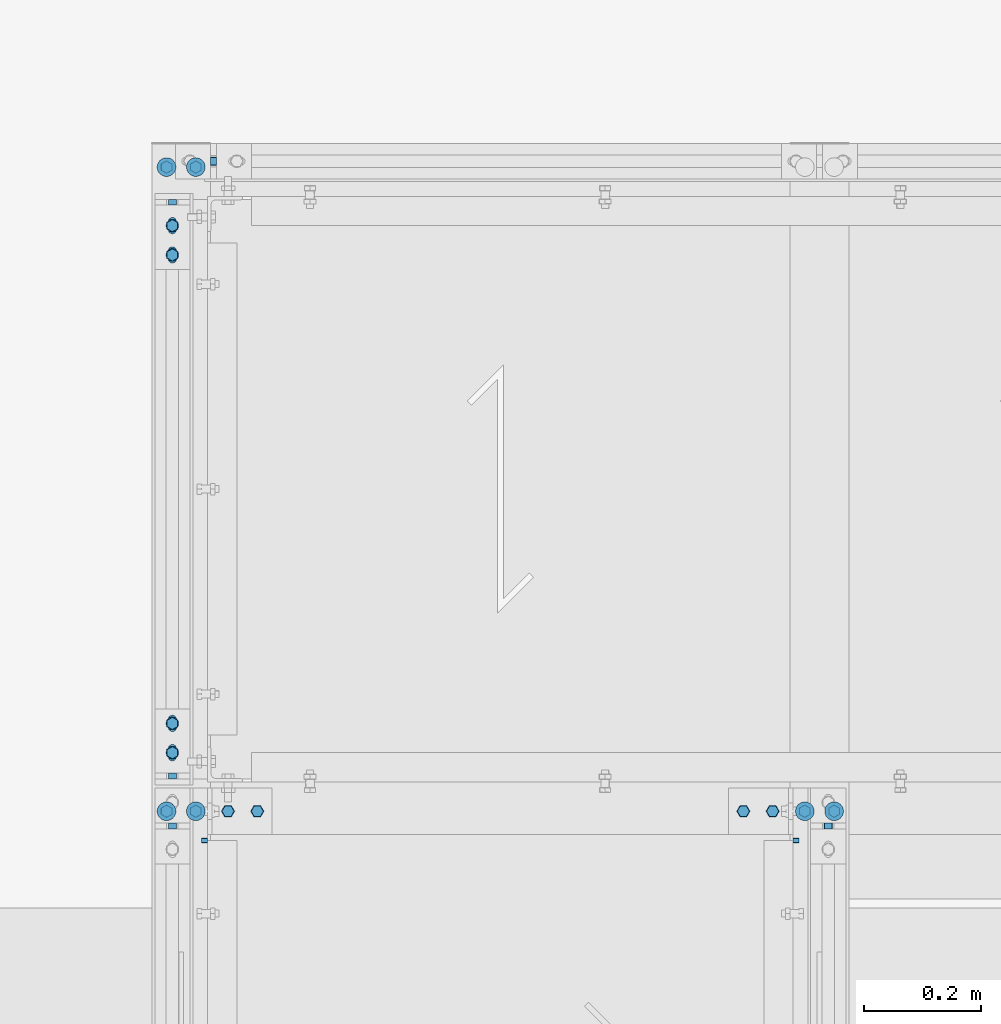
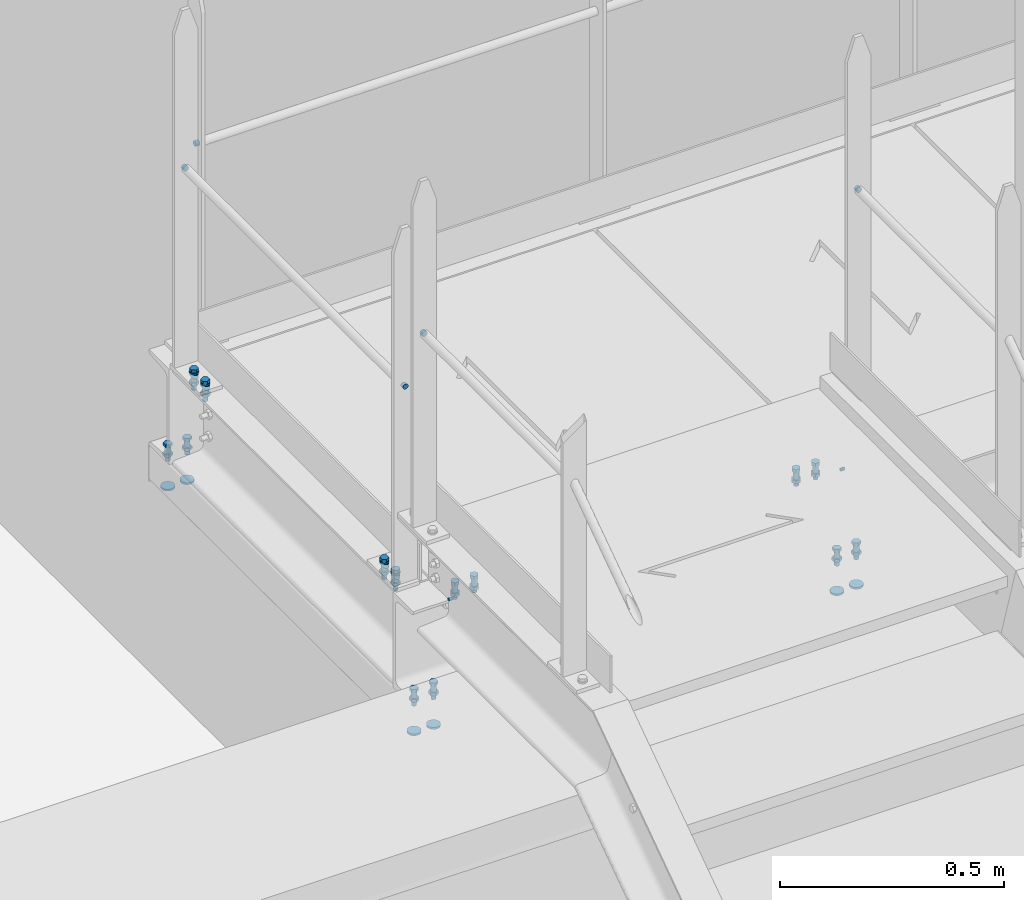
# One storey, part 298 of 362: 17 mechanical fasteners.
"""IFC2X3 building model written with IfcOpenShell, lengths in millimetres."""

from ifc_helpers import new_model, si_unit, frame, frame_2d, origin_with_axes, origin_2d_with_axis, place, context, subcontext, project, spatial, polyline, circle_curve, parameter, trimmed, segment, composite_curve, circle, outline, extrude, source, transform, mapped, material, type_object, element, save


model = new_model("IFC2X3")

# Units and contexts
model_context = context("Model", 3, precision=1e-05, world=origin_with_axes())
body_context = subcontext(model_context, "Body", "Model", "MODEL_VIEW")
ifc_project = project(units=[si_unit("LENGTHUNIT", "METRE", prefix="MILLI"), si_unit("AREAUNIT", "SQUARE_METRE"), si_unit("VOLUMEUNIT", "CUBIC_METRE"), si_unit("MASSUNIT", "GRAM", prefix="KILO"), si_unit("TIMEUNIT", "SECOND"), si_unit("PLANEANGLEUNIT", "RADIAN"), si_unit("SOLIDANGLEUNIT", "STERADIAN"), si_unit("THERMODYNAMICTEMPERATUREUNIT", "DEGREE_CELSIUS"), si_unit("LUMINOUSINTENSITYUNIT", "LUMEN")], contexts=[model_context])

# Site, building, storey
site_placement = place(None, origin_with_axes())
site = spatial("IfcSite", under=ifc_project, at=site_placement, Name="Undefined", CompositionType="ELEMENT")
building_placement = place(site_placement, origin_with_axes())
building = spatial("IfcBuilding", under=site, at=building_placement, Name="Undefined", CompositionType="ELEMENT")
storey_placement = place(building_placement, origin_with_axes())
storey = spatial("IfcBuildingStorey", under=building, at=storey_placement, Name="Undefined", CompositionType="ELEMENT", Elevation=0.0)

# Mechanical fasteners
ifc_material_1 = material(Name="6.8")
mechanical_fastener_type = type_object("IfcMechanicalFastenerType", Name="Bolt assembly")
shared_shape_1 = source(origin_with_axes(), body_context, "Body", "SweptSolid", [
    extrude(circle(Radius=7.0, at=origin_2d_with_axis()), frame((0.0, -5.00000000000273, 0.0), z_axis=(0.0, 1.0, 0.0), x_axis=(1.0, 0.0, 0.0)), (0.0, 0.0, 1.0), 10.1),
])
for number, where, z_axis, x_axis, name in (
    (1, (11220.0061849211, 17089.9938659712, 9243.80001258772), (0.0, 0.0, -1.0), (0.0, -1.0, 0.0), "Bolt assembly"),
    (2, (11149.9863365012, 16040.0036560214, 9243.80000001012), (0.0, 0.0, -1.0), (1.0, 0.0, 0.0), "Bolt assembly"),
    (3, (11149.9863365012, 17019.9977309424, 9243.80000001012), (0.0, 0.0, -1.0), (1.0, 0.0, 0.0), "Bolt assembly"),
    (4, (11149.9863365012, 15954.9996531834, 9438.8), (0.0, 0.0, -1.0), (1.0, 0.0, 0.0), "Bolt assembly"),
    (5, (12269.9936634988, 15954.9996531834, 9438.8), (0.0, 0.0, 1.0), (-1.0, 0.0, 0.0), "Bolt assembly"),
):
    element("IfcMechanicalFastener", number, at=place(storey_placement, frame(where, z_axis=z_axis, x_axis=x_axis)), inside=storey, type_object=mechanical_fastener_type, material=ifc_material_1, Name=name, NominalDiameter=12.0, NominalLength=10.0, context=body_context, shape_type="MappedRepresentation", body=[
        mapped(shared_shape_1, transform((0.0, 0.0, 0.0))),
    ])
shared_shape_2 = source(origin_with_axes(), body_context, "Body", "SweptSolid", [
    extrude(circle(Radius=16.0, at=origin_2d_with_axis()), frame((0.0, 0.0, 0.0), z_axis=(0.0, 1.0, 0.0), x_axis=(1.0, 0.0, 0.0)), (0.0, 0.0, 1.0), 5.1),
])
for number, where, z_axis, x_axis, name in (
    (6, (12255.0007605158, 15979.9857255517, 8340.0), (1.0, 0.0, 0.0), (0.0, 1.0, 0.0), "Bolt assembly"),
    (7, (11165.0007605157, 15979.9857255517, 8340.0), (1.0, 0.0, 0.0), (0.0, 1.0, 0.0), "Bolt assembly"),
):
    element("IfcMechanicalFastener", number, at=place(storey_placement, frame(where, z_axis=z_axis, x_axis=x_axis)), inside=storey, type_object=mechanical_fastener_type, material=ifc_material_1, Name=name, NominalDiameter=30.0, NominalLength=5.0, context=body_context, shape_type="MappedRepresentation", body=[
        mapped(shared_shape_2, transform((0.0, 0.0, -25.0))),
        mapped(shared_shape_2, transform((0.0, 0.0, 25.0))),
    ])
shared_shape_3 = source(origin_with_axes(), body_context, "Body", "SweptSolid", [
    extrude(circle(Radius=16.0, at=origin_2d_with_axis()), frame((0.0, -5.00000000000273, 0.0), z_axis=(0.0, 1.0, 0.0), x_axis=(1.0, 0.0, 0.0)), (0.0, 0.0, 1.0), 5.1),
])
mechanical_fastener_1_placement = place(storey_placement, frame((11165.0007605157, 17079.9935808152, 8340.0), z_axis=(1.0, 0.0, 0.0), x_axis=(0.0, -1.0, 0.0)))
element("IfcMechanicalFastener", 8, at=mechanical_fastener_1_placement, inside=storey, type_object=mechanical_fastener_type, material=ifc_material_1, Name="Bolt assembly", NominalDiameter=30.0, NominalLength=5.0, context=body_context, shape_type="MappedRepresentation", body=[
    mapped(shared_shape_3, transform((0.0, 0.0, -25.0))),
    mapped(shared_shape_3, transform((0.0, 0.0, 25.0))),
])
ifc_material_2 = material(Name="8.8-SB-GALVA")
shared_shape_4 = source(origin_with_axes(), body_context, "Body", "SweptSolid", [
    extrude(circle(Radius=7.0, at=origin_2d_with_axis()), frame((0.0, -13.5001910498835, 0.0), z_axis=(0.0, 1.0, 0.0), x_axis=(1.0, 0.0, 0.0)), (0.0, 0.0, 1.0), 13.6),
    extrude(circle(Radius=7.0, at=origin_2d_with_axis()), frame((0.0, -0.100011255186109, 0.0), z_axis=(0.0, 1.0, 0.0), x_axis=(1.0, 0.0, 0.0)), (0.0, 0.0, 1.0), 5.1),
    extrude(outline(polyline([(10.39230484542, 0.0), (5.19615242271, 9.00000000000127), (-5.19615242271, 9.00000000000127), (-10.39230484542, 0.0), (-5.19615242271, -9.00000000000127), (5.19615242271, -9.00000000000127), (10.39230484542, 0.0)])), frame((0.0, -21.5201910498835, 0.0), z_axis=(0.0, 1.0, 0.0), x_axis=(1.0, 0.0, 0.0)), (0.0, 0.0, 1.0), 7.92),
    extrude(circle(Radius=6.0, at=origin_2d_with_axis()), frame((0.0, -13.6001910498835, 0.0), z_axis=(0.0, 1.0, 0.0), x_axis=(1.0, 0.0, 0.0)), (0.0, 0.0, 1.0), 40.0),
    extrude(outline(polyline([(11.5008173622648, 0.0), (5.7504086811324, 9.96000000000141), (-5.7504086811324, 9.96000000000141), (-11.5008173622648, 0.0), (-5.7504086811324, -9.96000000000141), (5.7504086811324, -9.96000000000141), (11.5008173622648, 0.0)])), frame((0.0, 5.0, 0.0), z_axis=(0.0, 1.0, 0.0), x_axis=(1.0, 0.0, 0.0)), (0.0, 0.0, 1.0), 7.92),
])
mechanical_fastener_2_placement = place(storey_placement, frame((12255.0007602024, 15979.9998774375, 8440.0), z_axis=(-1.0, 0.0, 0.0), x_axis=(0.0, 1.0, 0.0)))
element("IfcMechanicalFastener", 9, at=mechanical_fastener_2_placement, inside=storey, type_object=mechanical_fastener_type, material=ifc_material_2, Name="Bolt assembly", NominalDiameter=12.0, NominalLength=40.0, context=body_context, shape_type="MappedRepresentation", body=[
    mapped(shared_shape_4, transform((0.0, 0.0, -25.0))),
    mapped(shared_shape_4, transform((0.0, 0.0, 25.0))),
])
shared_shape_5 = source(origin_with_axes(), body_context, "Body", "SweptSolid", [
    extrude(circle(Radius=7.0, at=origin_2d_with_axis()), frame((0.0, -13.4988812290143, 0.0), z_axis=(0.0, 1.0, 0.0), x_axis=(1.0, 0.0, 0.0)), (0.0, 0.0, 1.0), 13.6),
    extrude(circle(Radius=7.0, at=origin_2d_with_axis()), frame((0.0, -0.100011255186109, 0.0), z_axis=(0.0, 1.0, 0.0), x_axis=(1.0, 0.0, 0.0)), (0.0, 0.0, 1.0), 5.1),
    extrude(outline(polyline([(10.39230484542, 0.0), (5.19615242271, 9.00000000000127), (-5.19615242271, 9.00000000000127), (-10.39230484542, 0.0), (-5.19615242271, -9.00000000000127), (5.19615242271, -9.00000000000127), (10.39230484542, 0.0)])), frame((0.0, -21.5188812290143, 0.0), z_axis=(0.0, 1.0, 0.0), x_axis=(1.0, 0.0, 0.0)), (0.0, 0.0, 1.0), 7.92),
    extrude(circle(Radius=6.0, at=origin_2d_with_axis()), frame((0.0, -13.5988812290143, 0.0), z_axis=(0.0, 1.0, 0.0), x_axis=(1.0, 0.0, 0.0)), (0.0, 0.0, 1.0), 40.0),
    extrude(outline(polyline([(11.5008173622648, 0.0), (5.7504086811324, 9.96000000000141), (-5.7504086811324, 9.96000000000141), (-11.5008173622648, 0.0), (-5.7504086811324, -9.96000000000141), (5.7504086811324, -9.96000000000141), (11.5008173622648, 0.0)])), frame((0.0, 5.0, 0.0), z_axis=(0.0, 1.0, 0.0), x_axis=(1.0, 0.0, 0.0)), (0.0, 0.0, 1.0), 7.92),
])
mechanical_fastener_3_placement = place(storey_placement, frame((11165.000760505, 15979.9857255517, 8440.0), z_axis=(-1.0, 0.0, 0.0), x_axis=(0.0, 1.0, 0.0)))
element("IfcMechanicalFastener", 10, at=mechanical_fastener_3_placement, inside=storey, type_object=mechanical_fastener_type, material=ifc_material_2, Name="Bolt assembly", NominalDiameter=12.0, NominalLength=40.0, context=body_context, shape_type="MappedRepresentation", body=[
    mapped(shared_shape_5, transform((0.0, 0.0, -25.0))),
    mapped(shared_shape_5, transform((0.0, 0.0, 25.0))),
])
shared_shape_6 = source(origin_with_axes(), body_context, "Body", "SweptSolid", [
    extrude(circle(Radius=7.0, at=origin_2d_with_axis()), frame((0.0, -0.100011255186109, 0.0), z_axis=(0.0, 1.0, 0.0), x_axis=(1.0, 0.0, 0.0)), (0.0, 0.0, 1.0), 12.9),
    extrude(outline(composite_curve([segment(polyline([(-7.0, 7.0), (7.0, 7.0)]), True, "CONTINUOUS"), segment(trimmed(circle_curve(frame_2d((7.0, 0.0), x_axis=(0.0, 1.0)), 7.0), [parameter(0.0)], [parameter(3.14159265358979)], False, "PARAMETER"), True, "CONTINUOUS"), segment(polyline([(7.0, -7.0), (-7.0, -7.0)]), True, "CONTINUOUS"), segment(trimmed(circle_curve(frame_2d((-7.0, 0.0), x_axis=(0.0, -1.0)), 7.0), [parameter(0.0)], [parameter(3.14159265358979)], False, "PARAMETER"), True, "DISCONTINUOUS")], self_intersect=False)), frame((0.0, -9.9, 0.0), z_axis=(0.0, 1.0, 0.0), x_axis=(1.0, 0.0, 0.0)), (0.0, 0.0, 1.0), 10.0),
    extrude(outline(polyline([(10.39230484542, 0.0), (5.19615242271, 9.00000000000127), (-5.19615242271, 9.00000000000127), (-10.39230484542, 0.0), (-5.19615242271, -9.00000000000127), (5.19615242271, -9.00000000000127), (10.39230484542, 0.0)])), frame((0.0, -21.88, 0.0), z_axis=(0.0, 1.0, 0.0), x_axis=(1.0, 0.0, 0.0)), (0.0, 0.0, 1.0), 7.92),
    extrude(circle(Radius=6.0, at=origin_2d_with_axis()), frame((0.0, -13.96, 0.0), z_axis=(0.0, 1.0, 0.0), x_axis=(1.0, 0.0, 0.0)), (0.0, 0.0, 1.0), 50.0),
    extrude(circle(Radius=10.8, at=origin_2d_with_axis()), frame((0.0, -13.96, 0.0), z_axis=(0.0, 1.0, 0.0), x_axis=(1.0, 0.0, 0.0)), (0.0, 0.0, 1.0), 3.96),
    extrude(outline(polyline([(11.5008173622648, 0.0), (5.7504086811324, 9.96000000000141), (-5.7504086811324, 9.96000000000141), (-11.5008173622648, 0.0), (-5.7504086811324, -9.96000000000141), (5.7504086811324, -9.96000000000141), (11.5008173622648, 0.0)])), frame((0.0, 12.7984645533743, 0.0), z_axis=(0.0, 1.0, 0.0), x_axis=(1.0, 0.0, 0.0)), (0.0, 0.0, 1.0), 7.92),
])
mechanical_fastener_4_placement = place(storey_placement, frame((11149.9863365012, 16130.0014648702, 8700.00000001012), z_axis=(1.0, 0.0, 0.0), x_axis=(0.0, -1.0, 0.0)))
element("IfcMechanicalFastener", 11, at=mechanical_fastener_4_placement, inside=storey, type_object=mechanical_fastener_type, material=ifc_material_2, Name="Bolt assembly", NominalDiameter=12.0, NominalLength=50.0, context=body_context, shape_type="MappedRepresentation", body=[
    mapped(shared_shape_6, transform((0.0, 0.0, 0.0))),
    mapped(shared_shape_6, transform((49.9999999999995, 0.0, -3.63797880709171e-12))),
])
shared_shape_7 = source(origin_with_axes(), body_context, "Body", "SweptSolid", [
    extrude(circle(Radius=7.0, at=origin_2d_with_axis()), frame((0.0, -0.100011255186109, 0.0), z_axis=(0.0, 1.0, 0.0), x_axis=(1.0, 0.0, 0.0)), (0.0, 0.0, 1.0), 12.9),
    extrude(outline(composite_curve([segment(polyline([(-7.0, 7.0), (7.0, 7.0)]), True, "CONTINUOUS"), segment(trimmed(circle_curve(frame_2d((7.0, 0.0), x_axis=(0.0, 1.0)), 7.0), [parameter(0.0)], [parameter(3.14159265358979)], False, "PARAMETER"), True, "CONTINUOUS"), segment(polyline([(7.0, -7.0), (-7.0, -7.0)]), True, "CONTINUOUS"), segment(trimmed(circle_curve(frame_2d((-7.0, 0.0), x_axis=(0.0, -1.0)), 7.0), [parameter(0.0)], [parameter(3.14159265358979)], False, "PARAMETER"), True, "DISCONTINUOUS")], self_intersect=False)), frame((0.0, -9.9, 0.0), z_axis=(0.0, 1.0, 0.0), x_axis=(1.0, 0.0, 0.0)), (0.0, 0.0, 1.0), 10.0),
    extrude(outline(polyline([(10.39230484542, 0.0), (5.19615242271, 9.00000000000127), (-5.19615242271, 9.00000000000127), (-10.39230484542, 0.0), (-5.19615242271, -9.00000000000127), (5.19615242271, -9.00000000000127), (10.39230484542, 0.0)])), frame((0.0, -21.88, 0.0), z_axis=(0.0, 1.0, 0.0), x_axis=(1.0, 0.0, 0.0)), (0.0, 0.0, 1.0), 7.92),
    extrude(circle(Radius=6.0, at=origin_2d_with_axis()), frame((0.0, -13.96, 0.0), z_axis=(0.0, 1.0, 0.0), x_axis=(1.0, 0.0, 0.0)), (0.0, 0.0, 1.0), 50.0),
    extrude(circle(Radius=10.8, at=origin_2d_with_axis()), frame((0.0, -13.96, 0.0), z_axis=(0.0, 1.0, 0.0), x_axis=(1.0, 0.0, 0.0)), (0.0, 0.0, 1.0), 3.96),
    extrude(outline(polyline([(11.5008173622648, 0.0), (5.7504086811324, 9.96000000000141), (-5.7504086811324, 9.96000000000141), (-11.5008173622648, 0.0), (-5.7504086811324, -9.96000000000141), (5.7504086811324, -9.96000000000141), (11.5008173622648, 0.0)])), frame((0.0, 12.7988639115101, 0.0), z_axis=(0.0, 1.0, 0.0), x_axis=(1.0, 0.0, 0.0)), (0.0, 0.0, 1.0), 7.92),
])
mechanical_fastener_5_placement = place(storey_placement, frame((11149.9863365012, 16929.9977309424, 8700.00000001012), z_axis=(-1.0, 0.0, 0.0), x_axis=(0.0, 1.0, 0.0)))
element("IfcMechanicalFastener", 12, at=mechanical_fastener_5_placement, inside=storey, type_object=mechanical_fastener_type, material=ifc_material_2, Name="Bolt assembly", NominalDiameter=12.0, NominalLength=50.0, context=body_context, shape_type="MappedRepresentation", body=[
    mapped(shared_shape_7, transform((0.0, 0.0, 0.0))),
    mapped(shared_shape_7, transform((49.9999999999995, 0.0, -3.63797880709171e-12))),
])
shared_shape_8 = source(origin_with_axes(), body_context, "Body", "SweptSolid", [
    extrude(circle(Radius=4.0, at=origin_2d_with_axis()), frame((0.0, -44.9964209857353, 0.0), z_axis=(0.0, 1.0, 0.0), x_axis=(1.0, 0.0, 0.0)), (0.0, 0.0, 1.0), 10.1),
])
for number, where, z_axis, x_axis, name in (
    (13, (12255.0019070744, 15930.0036039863, 8710.00016784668), (0.0, -1.0, 0.0), (0.0, 0.0, -1.0), "Bolt assembly"),
    (14, (11165.0061245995, 15930.0036039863, 8710.00016784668), (0.0, 1.0, 0.0), (0.0, 0.0, -1.0), "Bolt assembly"),
):
    element("IfcMechanicalFastener", number, at=place(storey_placement, frame(where, z_axis=z_axis, x_axis=x_axis)), inside=storey, type_object=mechanical_fastener_type, material=ifc_material_1, Name=name, NominalDiameter=6.0, NominalLength=10.0, context=body_context, shape_type="MappedRepresentation", body=[
        mapped(shared_shape_8, transform((0.0, 0.0, 0.0))),
    ])
shared_shape_9 = source(origin_with_axes(), body_context, "Body", "SweptSolid", [
    extrude(circle(Radius=7.0, at=origin_2d_with_axis()), frame((0.0, -0.100155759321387, 0.0), z_axis=(0.0, 1.0, 0.0), x_axis=(1.0, 0.0, 0.0)), (0.0, 0.0, 1.0), 13.7),
    extrude(circle(Radius=7.0, at=origin_2d_with_axis()), frame((0.0, -7.9, 0.0), z_axis=(0.0, 1.0, 0.0), x_axis=(1.0, 0.0, 0.0)), (0.0, 0.0, 1.0), 8.0),
    extrude(outline(polyline([(10.39230484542, 0.0), (5.19615242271, 9.00000000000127), (-5.19615242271, 9.00000000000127), (-10.39230484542, 0.0), (-5.19615242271, -9.00000000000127), (5.19615242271, -9.00000000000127), (10.39230484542, 0.0)])), frame((0.0, -15.92, 0.0), z_axis=(0.0, 1.0, 0.0), x_axis=(1.0, 0.0, 0.0)), (0.0, 0.0, 1.0), 7.92),
    extrude(circle(Radius=6.0, at=origin_2d_with_axis()), frame((0.0, -8.0, 0.0), z_axis=(0.0, 1.0, 0.0), x_axis=(1.0, 0.0, 0.0)), (0.0, 0.0, 1.0), 40.0),
    extrude(outline(polyline([(11.5008173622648, 0.0), (5.7504086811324, 9.96000000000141), (-5.7504086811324, 9.96000000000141), (-11.5008173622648, 0.0), (-5.7504086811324, -9.96000000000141), (5.7504086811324, -9.96000000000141), (11.5008173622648, 0.0)])), frame((0.0, 13.6003603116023, 0.0), z_axis=(0.0, 1.0, 0.0), x_axis=(1.0, 0.0, 0.0)), (0.0, 0.0, 1.0), 7.92),
])
mechanical_fastener_6_placement = place(storey_placement, frame((12125.0050724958, 15980.0058471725, 8700.0), z_axis=(0.0, 1.0, 0.0), x_axis=(1.0, 0.0, 0.0)))
element("IfcMechanicalFastener", 15, at=mechanical_fastener_6_placement, inside=storey, type_object=mechanical_fastener_type, material=ifc_material_2, Name="Bolt assembly", NominalDiameter=12.0, NominalLength=40.0, context=body_context, shape_type="MappedRepresentation", body=[
    mapped(shared_shape_9, transform((0.0, 0.0, 0.0))),
    mapped(shared_shape_9, transform((49.9999999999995, 0.0, -3.63797880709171e-12))),
])
shared_shape_10 = source(origin_with_axes(), body_context, "Body", "SweptSolid", [
    extrude(circle(Radius=7.0, at=origin_2d_with_axis()), frame((0.0, -0.100011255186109, 0.0), z_axis=(0.0, 1.0, 0.0), x_axis=(1.0, 0.0, 0.0)), (0.0, 0.0, 1.0), 13.7),
    extrude(circle(Radius=7.0, at=origin_2d_with_axis()), frame((0.0, -7.9, 0.0), z_axis=(0.0, 1.0, 0.0), x_axis=(1.0, 0.0, 0.0)), (0.0, 0.0, 1.0), 8.0),
    extrude(outline(polyline([(10.39230484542, 0.0), (5.19615242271, 9.00000000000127), (-5.19615242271, 9.00000000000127), (-10.39230484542, 0.0), (-5.19615242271, -9.00000000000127), (5.19615242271, -9.00000000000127), (10.39230484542, 0.0)])), frame((0.0, -15.92, 0.0), z_axis=(0.0, 1.0, 0.0), x_axis=(1.0, 0.0, 0.0)), (0.0, 0.0, 1.0), 7.92),
    extrude(circle(Radius=6.0, at=origin_2d_with_axis()), frame((0.0, -8.0, 0.0), z_axis=(0.0, 1.0, 0.0), x_axis=(1.0, 0.0, 0.0)), (0.0, 0.0, 1.0), 40.0),
    extrude(outline(polyline([(11.5008173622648, 0.0), (5.7504086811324, 9.96000000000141), (-5.7504086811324, 9.96000000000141), (-11.5008173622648, 0.0), (-5.7504086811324, -9.96000000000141), (5.7504086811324, -9.96000000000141), (11.5008173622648, 0.0)])), frame((0.0, 13.6004557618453, 0.0), z_axis=(0.0, 1.0, 0.0), x_axis=(1.0, 0.0, 0.0)), (0.0, 0.0, 1.0), 7.92),
])
mechanical_fastener_7_placement = place(storey_placement, frame((11295.0029591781, 15980.0058471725, 8700.0), z_axis=(0.0, -1.0, 0.0), x_axis=(-1.0, 0.0, 0.0)))
element("IfcMechanicalFastener", 16, at=mechanical_fastener_7_placement, inside=storey, type_object=mechanical_fastener_type, material=ifc_material_2, Name="Bolt assembly", NominalDiameter=12.0, NominalLength=40.0, context=body_context, shape_type="MappedRepresentation", body=[
    mapped(shared_shape_10, transform((0.0, 0.0, 0.0))),
    mapped(shared_shape_10, transform((49.9999999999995, 0.0, -3.63797880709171e-12))),
])
shared_shape_11 = source(origin_with_axes(), body_context, "Body", "SweptSolid", [
    extrude(circle(Radius=7.0, at=origin_2d_with_axis()), frame((0.0, -13.4999650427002, 0.0), z_axis=(0.0, 1.0, 0.0), x_axis=(1.0, 0.0, 0.0)), (0.0, 0.0, 1.0), 13.6),
    extrude(circle(Radius=7.0, at=origin_2d_with_axis()), frame((0.0, -0.100011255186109, 0.0), z_axis=(0.0, 1.0, 0.0), x_axis=(1.0, 0.0, 0.0)), (0.0, 0.0, 1.0), 5.1),
    extrude(outline(polyline([(10.39230484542, 0.0), (5.19615242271, 9.00000000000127), (-5.19615242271, 9.00000000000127), (-10.39230484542, 0.0), (-5.19615242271, -9.00000000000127), (5.19615242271, -9.00000000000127), (10.39230484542, 0.0)])), frame((0.0, -21.5199650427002, 0.0), z_axis=(0.0, 1.0, 0.0), x_axis=(1.0, 0.0, 0.0)), (0.0, 0.0, 1.0), 7.92),
    extrude(circle(Radius=6.0, at=origin_2d_with_axis()), frame((0.0, -13.5999650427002, 0.0), z_axis=(0.0, 1.0, 0.0), x_axis=(1.0, 0.0, 0.0)), (0.0, 0.0, 1.0), 40.0),
    extrude(outline(polyline([(11.5008173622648, 0.0), (5.7504086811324, 9.96000000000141), (-5.7504086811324, 9.96000000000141), (-11.5008173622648, 0.0), (-5.7504086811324, -9.96000000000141), (5.7504086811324, -9.96000000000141), (11.5008173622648, 0.0)])), frame((0.0, 5.0, 0.0), z_axis=(0.0, 1.0, 0.0), x_axis=(1.0, 0.0, 0.0)), (0.0, 0.0, 1.0), 7.92),
])
mechanical_fastener_8_placement = place(storey_placement, frame((11165.000760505, 17079.9935808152, 8440.0), z_axis=(1.0, 0.0, 0.0), x_axis=(0.0, -1.0, 0.0)))
element("IfcMechanicalFastener", 17, at=mechanical_fastener_8_placement, inside=storey, type_object=mechanical_fastener_type, material=ifc_material_2, Name="Bolt assembly", NominalDiameter=12.0, NominalLength=40.0, context=body_context, shape_type="MappedRepresentation", body=[
    mapped(shared_shape_11, transform((0.0, 0.0, -25.0))),
    mapped(shared_shape_11, transform((0.0, 0.0, 25.0))),
])

save(model, "model.ifc")
